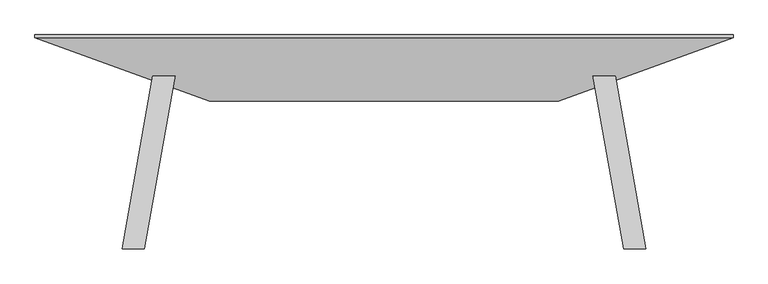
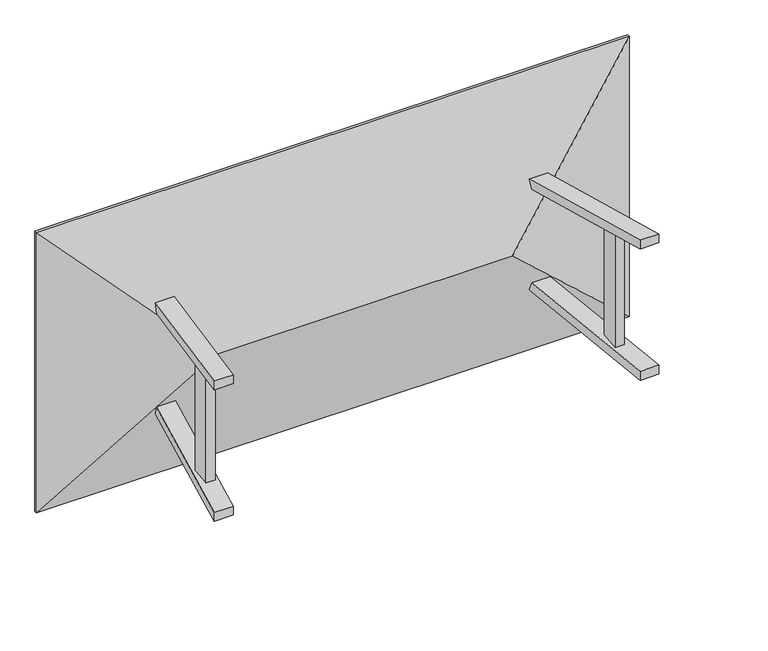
"""IFC4 building model written with IfcOpenShell, lengths in millimetres: proxy geometry, GRADIENT^TABLE 4A_CANTED LEGS-VERTICAL STRETCHERS."""

from ifc_helpers import new_model, si_unit, frame, origin, place, context, project, spatial, polyline, outline, extrude, faceted_brep, source, transform, mapped, element, save


def generic_models_85c7fc78(model_context):
    return source(origin(), model_context, "Body", "SolidModel", [
        faceted_brep([(2133.6, -717.55, -876.0857695), (2007.076575, 0.0, -799.8857695), (1929.7010672, 0.0, -799.8857695), (2056.2244922, -717.55, -876.0857695), (2007.076575, 0.0, -838.2), (2133.6, -717.55, -914.4), (2056.2244922, -717.55, -914.4), (1929.7010672, 0.0, -838.2)], [[[0, 1, 2, 3]], [[4, 5, 6, 7]], [[0, 3, 6, 5]], [[1, 0, 5, 4]], [[2, 1, 4, 7]], [[3, 2, 7, 6]]]),
        faceted_brep([(2056.2244922, -717.55, -343.1142305), (2133.6, -717.55, -343.1142305), (2133.6, -717.55, -304.8), (2056.2244922, -717.55, -304.8), (2007.076575, 0.0, -419.3142305), (2007.076575, 0.0, -381.0), (1929.7010672, 0.0, -419.3142305), (1929.7010672, 0.0, -381.0)], [[[0, 1, 2, 3]], [[1, 4, 5, 2]], [[4, 6, 7, 5]], [[6, 0, 3, 7]], [[2, 5, 7, 3]], [[4, 1, 0, 6]]]),
        faceted_brep([(431.323425, 0.0, -799.8857695), (304.8, -717.55, -876.0857695), (382.1755078, -717.55, -876.0857695), (508.6989328, 0.0, -799.8857695), (304.8, -717.55, -914.4), (431.323425, 0.0, -838.2), (508.6989328, 0.0, -838.2), (382.1755078, -717.55, -914.4)], [[[0, 1, 2, 3]], [[4, 5, 6, 7]], [[2, 1, 4, 7]], [[1, 0, 5, 4]], [[0, 3, 6, 5]], [[3, 2, 7, 6]]]),
        faceted_brep([(304.8, -717.55, -343.1142305), (382.1755078, -717.55, -343.1142305), (382.1755078, -717.55, -304.8), (304.8, -717.55, -304.8), (431.323425, 0.0, -419.3142305), (431.323425, 0.0, -381.0), (508.6989328, 0.0, -419.3142305), (508.6989328, 0.0, -381.0)], [[[0, 1, 2, 3]], [[4, 0, 3, 5]], [[6, 4, 5, 7]], [[1, 6, 7, 2]], [[5, 3, 2, 7]], [[0, 4, 6, 1]]]),
        extrude(outline(polyline([(-565.15, -359.2983013), (-488.95, -367.3903367), (-488.95, -851.8096633), (-565.15, -859.9016987), (-565.15, -359.2983013)])), frame((2041.525, 0.0, 0.0), z_axis=(1.0, 0.0, 0.0), x_axis=(0.0, 1.0, 0.0)), (0.0, 0.0, 1.0), 38.1),
        extrude(outline(polyline([(-565.15, -359.2983013), (-488.95, -367.3903367), (-488.95, -851.8096633), (-565.15, -859.9016987), (-565.15, -359.2983013)])), frame((358.775, 0.0, 0.0), z_axis=(1.0, 0.0, 0.0), x_axis=(0.0, 1.0, 0.0)), (0.0, 0.0, 1.0), 38.1),
        faceted_brep([(2438.4, 22.225, 0.0), (1828.8, -199.6512548, -609.6), (2438.4, 22.225, -1219.2), (0.0, 22.225, 0.0), (609.6, -199.6512548, -609.6), (0.0, 22.225, -1219.2), (2438.4, 31.75, -1219.2), (2438.4, 31.75, 0.0), (0.0, 31.75, -1219.2), (0.0, 31.75, 0.0)], [[[0, 1, 2]], [[1, 0, 3, 4]], [[4, 3, 5]], [[1, 4, 5, 2]], [[0, 2, 6, 7]], [[2, 5, 8, 6]], [[5, 3, 9, 8]], [[3, 0, 7, 9]], [[7, 6, 8, 9]]]),
    ])


if __name__ == "__main__":
    model = new_model("IFC4")
    model_context = context("Model", 3, world=origin())
    ifc_project = project(units=[si_unit("LENGTHUNIT", "METRE", prefix="MILLI")], contexts=[model_context])
    site = spatial("IfcSite", under=ifc_project)
    building = spatial("IfcBuilding", under=site)
    placement = place(None, origin())
    generic_models_shape = generic_models_85c7fc78(model_context)
    element("IfcBuildingElementProxy", 1, Name="GRADIENT^TABLE 4A_CANTED LEGS-VERTICAL STRETCHERS", ObjectType="GRADIENT^TABLE 4A_CANTED LEGS-VERTICAL STRETCHERS", at=placement, inside=building, context=model_context, shape_type="MappedRepresentation", body=[
        mapped(generic_models_shape, transform((0.0, 0.0, 0.0), x_axis=(1.0, 0.0, 0.0), y_axis=(0.0, 1.0, 0.0), z_axis=(0.0, 0.0, 1.0))),
    ])
    save(model, "model.ifc")
